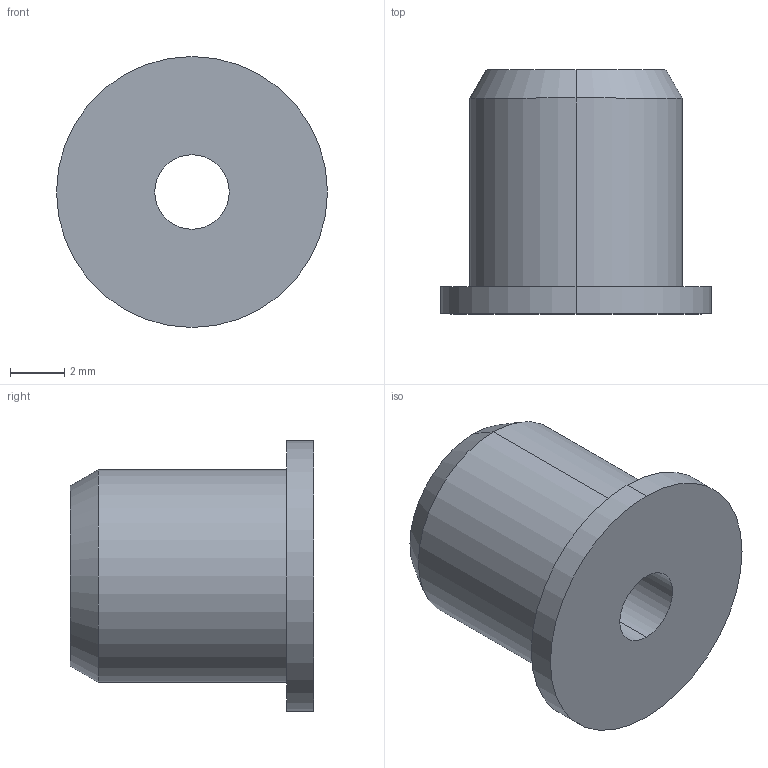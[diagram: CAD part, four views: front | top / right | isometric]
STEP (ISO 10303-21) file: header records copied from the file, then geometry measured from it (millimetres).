
FILE_DESCRIPTION (( 'STEP AP203' ), '1' );
FILE_NAME ('DBP_UPPER_ROLLER_GUIDE_hubV3r1.STEP', '2018-11-08T14:46:12', ( '' ), ( '' ), 'SwSTEP 2.0', 'SolidWorks 2015', '' );
FILE_SCHEMA (( 'CONFIG_CONTROL_DESIGN' ));
Length unit declared in the file: inch
Products named in the file (1): DBP_UPPER_ROLLER_GUIDE_hubV3r1
Bounding box: 10 x 9 x 10 mm (x, y, z)
Volume: 405 mm3; surface area: 439.7 mm2
Topology: 1 solids, 1 shells, 11 faces, 22 edges, 14 vertices
Faces by surface type: cylinder 6, plane 3, cone 2
Entity records: 377 total; most frequent: DIRECTION 60, CARTESIAN_POINT 48, ORIENTED_EDGE 44, AXIS2_PLACEMENT_3D 26, EDGE_CURVE 22, CIRCLE 14, VERTEX_POINT 14, EDGE_LOOP 14
